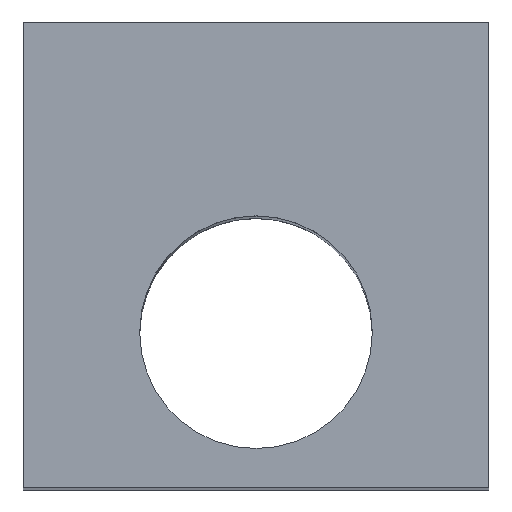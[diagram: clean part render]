
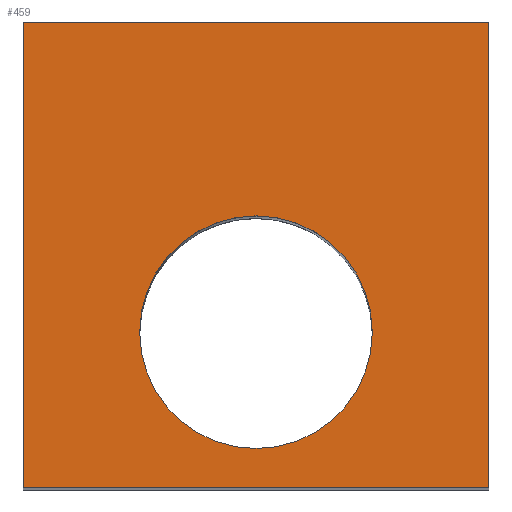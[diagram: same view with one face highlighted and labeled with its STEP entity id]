
A CAD part, top view. The second image highlights one B-rep face of the part: STEP entity #459.
In plain terms, the highlighted planar face has unit normal (0, 0, 1).
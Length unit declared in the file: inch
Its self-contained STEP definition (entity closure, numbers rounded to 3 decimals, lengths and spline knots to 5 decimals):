
#2 = VECTOR ( 'NONE', #10, 39.37008 ) ;
#6 = ORIENTED_EDGE ( 'NONE', *, *, #93, .T. ) ;
#8 = VECTOR ( 'NONE', #47, 39.37008 ) ;
#10 = DIRECTION ( 'NONE',  ( 0., -1., 0. ) ) ;
#12 = CIRCLE ( 'NONE', #429, 0.1875 ) ;
#22 = AXIS2_PLACEMENT_3D ( 'NONE', #471, #62, #148 ) ;
#27 = ORIENTED_EDGE ( 'NONE', *, *, #184, .F. ) ;
#44 = LINE ( 'NONE', #219, #8 ) ;
#47 = DIRECTION ( 'NONE',  ( -1., 0., 0. ) ) ;
#55 = PLANE ( 'NONE',  #22 ) ;
#58 = DIRECTION ( 'NONE',  ( 0., 0., 1. ) ) ;
#62 = DIRECTION ( 'NONE',  ( 0., 0., -1. ) ) ;
#79 = EDGE_CURVE ( 'NONE', #557, #284, #422, .T. ) ;
#91 = ORIENTED_EDGE ( 'NONE', *, *, #167, .T. ) ;
#93 = EDGE_CURVE ( 'NONE', #208, #345, #177, .T. ) ;
#110 = VECTOR ( 'NONE', #268, 39.37008 ) ;
#148 = DIRECTION ( 'NONE',  ( -1., 0., 0. ) ) ;
#161 = FACE_BOUND ( 'NONE', #490, .T. ) ;
#163 = CARTESIAN_POINT ( 'NONE',  ( -0.375, -0.375, 2.5 ) ) ;
#167 = EDGE_CURVE ( 'NONE', #247, #208, #44, .T. ) ;
#177 = LINE ( 'NONE', #356, #2 ) ;
#184 = EDGE_CURVE ( 'NONE', #284, #557, #12, .T. ) ;
#185 = CARTESIAN_POINT ( 'NONE',  ( -0.1875, -0.125, 2.5 ) ) ;
#196 = CARTESIAN_POINT ( 'NONE',  ( 0., -0.125, 2.5 ) ) ;
#208 = VERTEX_POINT ( 'NONE', #532 ) ;
#217 = VECTOR ( 'NONE', #411, 39.37008 ) ;
#219 = CARTESIAN_POINT ( 'NONE',  ( -0.375, 0.375, 2.5 ) ) ;
#230 = VERTEX_POINT ( 'NONE', #564 ) ;
#231 = LINE ( 'NONE', #453, #217 ) ;
#240 = ORIENTED_EDGE ( 'NONE', *, *, #79, .F. ) ;
#247 = VERTEX_POINT ( 'NONE', #297 ) ;
#259 = DIRECTION ( 'NONE',  ( 0., 0., 1. ) ) ;
#267 = EDGE_CURVE ( 'NONE', #345, #230, #392, .T. ) ;
#268 = DIRECTION ( 'NONE',  ( 1., 0., 0. ) ) ;
#284 = VERTEX_POINT ( 'NONE', #185 ) ;
#297 = CARTESIAN_POINT ( 'NONE',  ( 0.375, 0.375, 2.5 ) ) ;
#300 = ORIENTED_EDGE ( 'NONE', *, *, #465, .T. ) ;
#345 = VERTEX_POINT ( 'NONE', #163 ) ;
#356 = CARTESIAN_POINT ( 'NONE',  ( -0.375, -0.375, 2.5 ) ) ;
#361 = CARTESIAN_POINT ( 'NONE',  ( -0.375, -0.375, 2.5 ) ) ;
#392 = LINE ( 'NONE', #361, #110 ) ;
#411 = DIRECTION ( 'NONE',  ( 0., 1., 0. ) ) ;
#418 = DIRECTION ( 'NONE',  ( 1., 0., 0. ) ) ;
#422 = CIRCLE ( 'NONE', #547, 0.1875 ) ;
#429 = AXIS2_PLACEMENT_3D ( 'NONE', #196, #259, #519 ) ;
#452 = FACE_OUTER_BOUND ( 'NONE', #470, .T. ) ;
#453 = CARTESIAN_POINT ( 'NONE',  ( 0.375, -0.375, 2.5 ) ) ;
#459 = ADVANCED_FACE ( 'NONE', ( #161, #452 ), #55, .F. ) ;
#465 = EDGE_CURVE ( 'NONE', #230, #247, #231, .T. ) ;
#470 = EDGE_LOOP ( 'NONE', ( #300, #91, #6, #483 ) ) ;
#471 = CARTESIAN_POINT ( 'NONE',  ( 0., 0., 2.5 ) ) ;
#483 = ORIENTED_EDGE ( 'NONE', *, *, #267, .T. ) ;
#490 = EDGE_LOOP ( 'NONE', ( #240, #27 ) ) ;
#519 = DIRECTION ( 'NONE',  ( 1., 0., 0. ) ) ;
#529 = CARTESIAN_POINT ( 'NONE',  ( 0.1875, -0.125, 2.5 ) ) ;
#532 = CARTESIAN_POINT ( 'NONE',  ( -0.375, 0.375, 2.5 ) ) ;
#547 = AXIS2_PLACEMENT_3D ( 'NONE', #560, #58, #418 ) ;
#557 = VERTEX_POINT ( 'NONE', #529 ) ;
#560 = CARTESIAN_POINT ( 'NONE',  ( 0., -0.125, 2.5 ) ) ;
#564 = CARTESIAN_POINT ( 'NONE',  ( 0.375, -0.375, 2.5 ) ) ;
